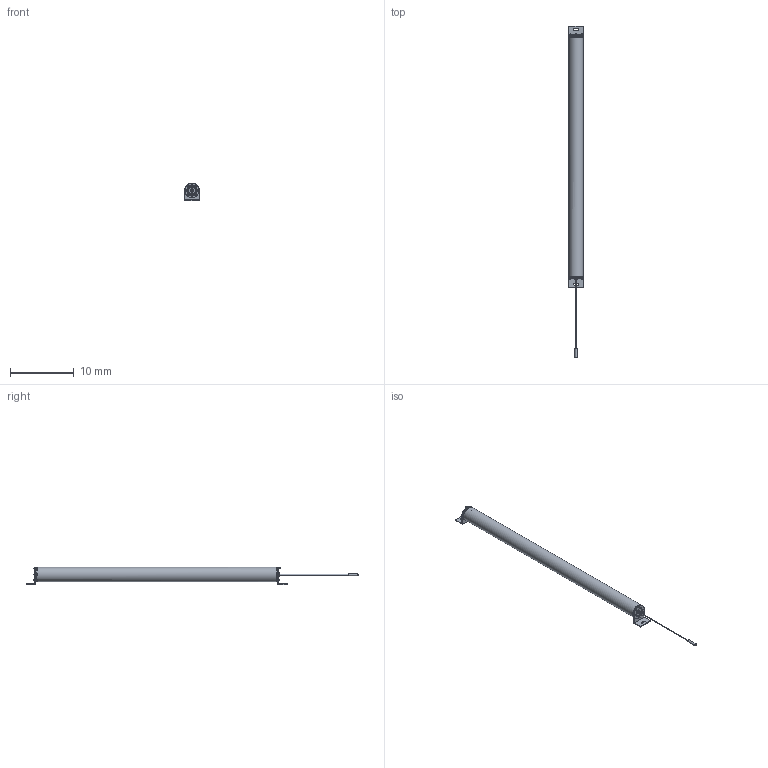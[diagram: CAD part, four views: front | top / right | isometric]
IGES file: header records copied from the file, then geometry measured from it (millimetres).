
Start section:  Autodesk DirectConnect version 7.0.27.0 ---- IGES version 5.3
Global section: file name: C:\ACADFILES\SS_PYLONS\CUSTOMER_FILES\SS-36-PYLON_3D_SMB_PT.iges; native system: Autodesk DirectConnect 7.0.27.0; preprocessor: 7.0.27.0; author: ENGINEERMAIN; organization: Unknown; date: 20150810.124941; units: millimetre
Bounding box: 2.26 x 52.01 x 2.75 mm (x, y, z)
Surface area: 1125 mm2 (no closed solid volume)
Topology: 0 solids, 0 shells, 772 faces, 3944 edges, 3944 vertices
Faces by surface type: bspline 772
